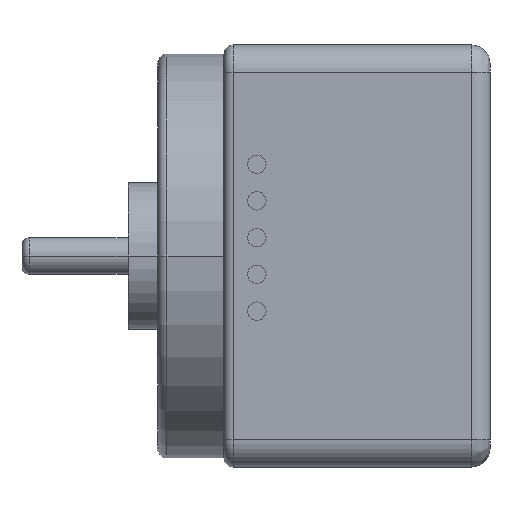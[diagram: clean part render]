
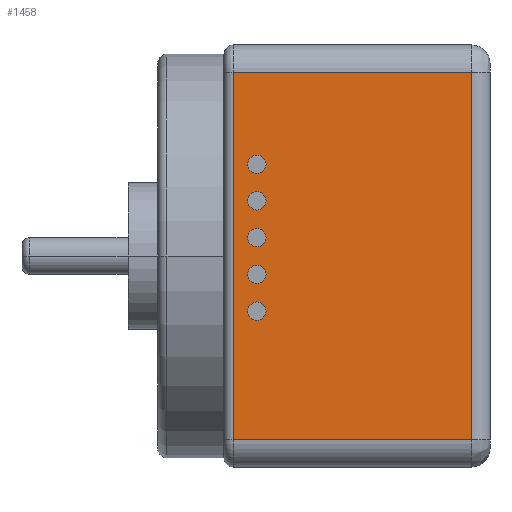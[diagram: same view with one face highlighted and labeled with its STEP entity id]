
A CAD part, front view. The second image highlights one B-rep face of the part: STEP entity #1458.
In plain terms, the highlighted planar face has unit normal (0, -1, 0).
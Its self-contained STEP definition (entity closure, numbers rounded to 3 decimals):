
#374=DIRECTION('',(0.,0.,1.));
#375=VECTOR('',#374,20.);
#376=CARTESIAN_POINT('',(0.5,-14.,-10.));
#377=LINE('',#376,#375);
#378=DIRECTION('',(-1.,0.,0.));
#379=VECTOR('',#378,13.);
#380=CARTESIAN_POINT('',(13.5,-14.,10.));
#381=LINE('',#380,#379);
#382=DIRECTION('',(0.,0.,-1.));
#383=VECTOR('',#382,20.);
#384=CARTESIAN_POINT('',(13.5,-14.,10.));
#385=LINE('',#384,#383);
#386=DIRECTION('',(-1.,0.,0.));
#387=VECTOR('',#386,13.);
#388=CARTESIAN_POINT('',(13.5,-14.,-10.));
#389=LINE('',#388,#387);
#390=CARTESIAN_POINT('',(1.8,-14.,5.));
#391=DIRECTION('',(0.,-1.,0.));
#392=DIRECTION('',(0.,0.,-1.));
#393=AXIS2_PLACEMENT_3D('',#390,#391,#392);
#395=CARTESIAN_POINT('',(1.8,-14.,5.));
#396=DIRECTION('',(0.,-1.,0.));
#397=DIRECTION('',(0.,0.,1.));
#398=AXIS2_PLACEMENT_3D('',#395,#396,#397);
#400=CARTESIAN_POINT('',(1.8,-14.,3.));
#401=DIRECTION('',(0.,-1.,0.));
#402=DIRECTION('',(0.,0.,-1.));
#403=AXIS2_PLACEMENT_3D('',#400,#401,#402);
#405=CARTESIAN_POINT('',(1.8,-14.,3.));
#406=DIRECTION('',(0.,-1.,0.));
#407=DIRECTION('',(0.,0.,1.));
#408=AXIS2_PLACEMENT_3D('',#405,#406,#407);
#410=CARTESIAN_POINT('',(1.8,-14.,1.));
#411=DIRECTION('',(0.,-1.,0.));
#412=DIRECTION('',(0.,0.,-1.));
#413=AXIS2_PLACEMENT_3D('',#410,#411,#412);
#415=CARTESIAN_POINT('',(1.8,-14.,1.));
#416=DIRECTION('',(0.,-1.,0.));
#417=DIRECTION('',(0.,0.,1.));
#418=AXIS2_PLACEMENT_3D('',#415,#416,#417);
#420=CARTESIAN_POINT('',(1.8,-14.,-1.));
#421=DIRECTION('',(0.,-1.,0.));
#422=DIRECTION('',(0.,0.,-1.));
#423=AXIS2_PLACEMENT_3D('',#420,#421,#422);
#425=CARTESIAN_POINT('',(1.8,-14.,-1.));
#426=DIRECTION('',(0.,-1.,0.));
#427=DIRECTION('',(0.,0.,1.));
#428=AXIS2_PLACEMENT_3D('',#425,#426,#427);
#430=CARTESIAN_POINT('',(1.8,-14.,-3.));
#431=DIRECTION('',(0.,-1.,0.));
#432=DIRECTION('',(0.,0.,-1.));
#433=AXIS2_PLACEMENT_3D('',#430,#431,#432);
#435=CARTESIAN_POINT('',(1.8,-14.,-3.));
#436=DIRECTION('',(0.,-1.,0.));
#437=DIRECTION('',(0.,0.,1.));
#438=AXIS2_PLACEMENT_3D('',#435,#436,#437);
#899=CARTESIAN_POINT('',(0.5,-14.,-10.));
#900=CARTESIAN_POINT('',(0.5,-14.,10.));
#901=VERTEX_POINT('',#899);
#902=VERTEX_POINT('',#900);
#908=CARTESIAN_POINT('',(13.5,-14.,10.));
#910=VERTEX_POINT('',#908);
#912=CARTESIAN_POINT('',(13.5,-14.,-10.));
#914=VERTEX_POINT('',#912);
#951=CARTESIAN_POINT('',(1.8,-14.,4.5));
#952=CARTESIAN_POINT('',(1.8,-14.,5.5));
#953=VERTEX_POINT('',#951);
#954=VERTEX_POINT('',#952);
#955=CARTESIAN_POINT('',(1.8,-14.,2.5));
#956=CARTESIAN_POINT('',(1.8,-14.,3.5));
#957=VERTEX_POINT('',#955);
#958=VERTEX_POINT('',#956);
#959=CARTESIAN_POINT('',(1.8,-14.,0.5));
#960=CARTESIAN_POINT('',(1.8,-14.,1.5));
#961=VERTEX_POINT('',#959);
#962=VERTEX_POINT('',#960);
#963=CARTESIAN_POINT('',(1.8,-14.,-1.5));
#964=CARTESIAN_POINT('',(1.8,-14.,-0.5));
#965=VERTEX_POINT('',#963);
#966=VERTEX_POINT('',#964);
#967=CARTESIAN_POINT('',(1.8,-14.,-3.5));
#968=CARTESIAN_POINT('',(1.8,-14.,-2.5));
#969=VERTEX_POINT('',#967);
#970=VERTEX_POINT('',#968);
#1414=CARTESIAN_POINT('',(0.,-14.,11.5));
#1415=DIRECTION('',(0.,-1.,0.));
#1416=DIRECTION('',(0.,0.,-1.));
#1417=AXIS2_PLACEMENT_3D('',#1414,#1415,#1416);
#1418=PLANE('',#1417);
#1420=ORIENTED_EDGE('',*,*,#1419,.T.);
#1422=ORIENTED_EDGE('',*,*,#1421,.F.);
#1424=ORIENTED_EDGE('',*,*,#1423,.T.);
#1425=ORIENTED_EDGE('',*,*,#1405,.T.);
#1426=EDGE_LOOP('',(#1420,#1422,#1424,#1425));
#1427=FACE_OUTER_BOUND('',#1426,.F.);
#1429=ORIENTED_EDGE('',*,*,#1428,.T.);
#1431=ORIENTED_EDGE('',*,*,#1430,.T.);
#1432=EDGE_LOOP('',(#1429,#1431));
#1433=FACE_BOUND('',#1432,.F.);
#1435=ORIENTED_EDGE('',*,*,#1434,.T.);
#1437=ORIENTED_EDGE('',*,*,#1436,.T.);
#1438=EDGE_LOOP('',(#1435,#1437));
#1439=FACE_BOUND('',#1438,.F.);
#1441=ORIENTED_EDGE('',*,*,#1440,.T.);
#1443=ORIENTED_EDGE('',*,*,#1442,.T.);
#1444=EDGE_LOOP('',(#1441,#1443));
#1445=FACE_BOUND('',#1444,.F.);
#1447=ORIENTED_EDGE('',*,*,#1446,.T.);
#1449=ORIENTED_EDGE('',*,*,#1448,.T.);
#1450=EDGE_LOOP('',(#1447,#1449));
#1451=FACE_BOUND('',#1450,.F.);
#1453=ORIENTED_EDGE('',*,*,#1452,.T.);
#1455=ORIENTED_EDGE('',*,*,#1454,.T.);
#1456=EDGE_LOOP('',(#1453,#1455));
#1457=FACE_BOUND('',#1456,.F.);
#1458=ADVANCED_FACE('',(#1427,#1433,#1439,#1445,#1451,#1457),#1418,.T.);
#394=CIRCLE('',#393,0.5);
#399=CIRCLE('',#398,0.5);
#404=CIRCLE('',#403,0.5);
#409=CIRCLE('',#408,0.5);
#414=CIRCLE('',#413,0.5);
#419=CIRCLE('',#418,0.5);
#424=CIRCLE('',#423,0.5);
#429=CIRCLE('',#428,0.5);
#434=CIRCLE('',#433,0.5);
#439=CIRCLE('',#438,0.5);
#1405=EDGE_CURVE('',#914,#901,#389,.T.);
#1419=EDGE_CURVE('',#901,#902,#377,.T.);
#1421=EDGE_CURVE('',#910,#902,#381,.T.);
#1423=EDGE_CURVE('',#910,#914,#385,.T.);
#1428=EDGE_CURVE('',#953,#954,#394,.T.);
#1430=EDGE_CURVE('',#954,#953,#399,.T.);
#1434=EDGE_CURVE('',#957,#958,#404,.T.);
#1436=EDGE_CURVE('',#958,#957,#409,.T.);
#1440=EDGE_CURVE('',#961,#962,#414,.T.);
#1442=EDGE_CURVE('',#962,#961,#419,.T.);
#1446=EDGE_CURVE('',#965,#966,#424,.T.);
#1448=EDGE_CURVE('',#966,#965,#429,.T.);
#1452=EDGE_CURVE('',#969,#970,#434,.T.);
#1454=EDGE_CURVE('',#970,#969,#439,.T.);
